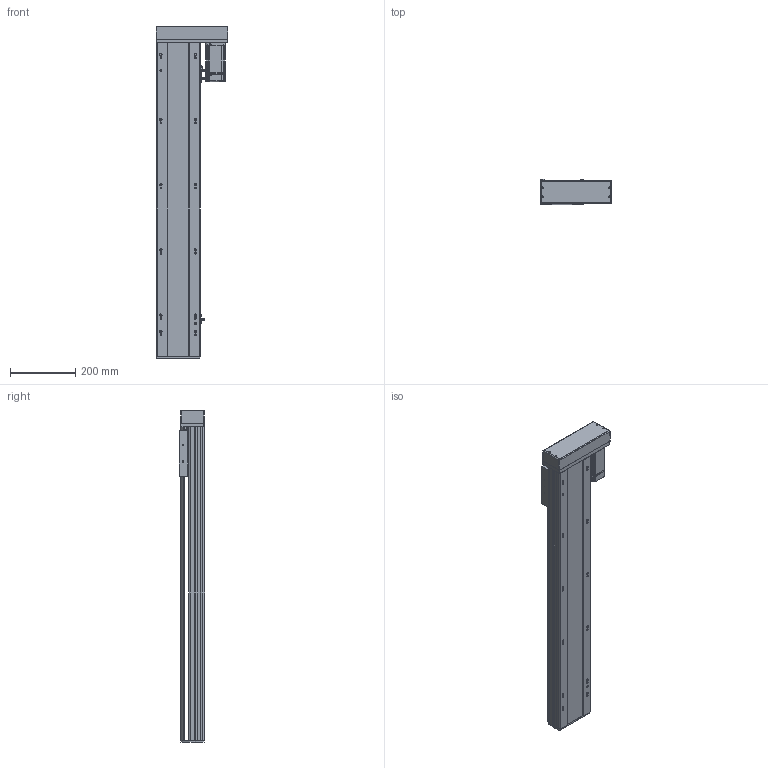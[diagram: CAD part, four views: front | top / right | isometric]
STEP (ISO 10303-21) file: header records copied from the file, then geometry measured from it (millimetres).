
FILE_DESCRIPTION (( 'STEP AP214' ), '1' );
FILE_NAME ('QTH14-750-BL-P40.STEP', '2021-11-13T08:01:06', ( '' ), ( '' ), 'SwSTEP 2.0', 'SolidWorks 2020', '' );
FILE_SCHEMA (( 'AUTOMOTIVE_DESIGN' ));
Length unit declared in the file: millimetre
Products named in the file (6): 葩璃 QTH14-BL-002 奻裔MZ-135-02^QTH14-BL-P40; 葩璃 QTH14-BL-001 菁釱MZ-135-01^QTH14-BL-P40; 葩璃 QTH14-BC-005 賑釱MZ-135-03 ^QTH14-BL-P40_SFA16; QTH14-750-BL-P40; 葩璃 pm-t65-672^QTH14-BL-P40; 葩璃 400W^QTH14-BL-P40
Assembly tree (7 placements, depth 2):
  QTH14-750-BL-P40
    葩璃 QTH14-BL-001 菁釱MZ-135-01^QTH14-BL-P40
    葩璃 QTH14-BL-002 奻裔MZ-135-02^QTH14-BL-P40
    葩璃 QTH14-BC-005 賑釱MZ-135-03 ^QTH14-BL-P40_SFA16
    葩璃 pm-t65-672^QTH14-BL-P40  x3
    葩璃 400W^QTH14-BL-P40
Bounding box: 220 x 78 x 1018.5 mm (x, y, z)
Volume: 7423803.3 mm3; surface area: 912764.5 mm2
Topology: 12 solids, 12 shells, 1309 faces, 3462 edges, 2224 vertices
Faces by surface type: plane 731, cylinder 452, cone 100, bspline 26
Entity records: 35078 total; most frequent: CARTESIAN_POINT 6581, DIRECTION 5787, ORIENTED_EDGE 5516, EDGE_CURVE 2758, AXIS2_PLACEMENT_3D 2008, VERTEX_POINT 1800, LINE 1771, VECTOR 1771
